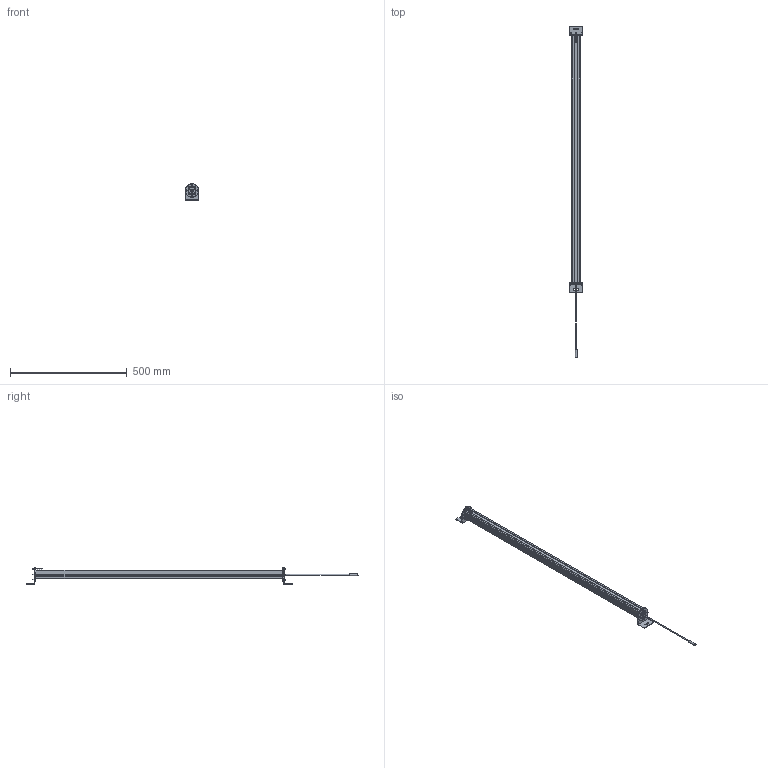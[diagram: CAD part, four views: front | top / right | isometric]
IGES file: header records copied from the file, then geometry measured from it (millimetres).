
Start section:  Autodesk DirectConnect version 7.0.27.0 ---- IGES version 5.3
Global section: file name: C:\ACADFILES\SS_PYLONS\CUSTOMER_FILES\SS-40-PYLON_3D_SMB.iges; native system: Autodesk DirectConnect 7.0.27.0; preprocessor: 7.0.27.0; author: ENGINEERMAIN; organization: Unknown; date: 20150810.125149; units: inch
Bounding box: 57.29 x 1422.77 x 69.85 mm (x, y, z)
Surface area: 431148 mm2 (no closed solid volume)
Topology: 0 solids, 0 shells, 754 faces, 3833 edges, 3829 vertices
Faces by surface type: bspline 754
